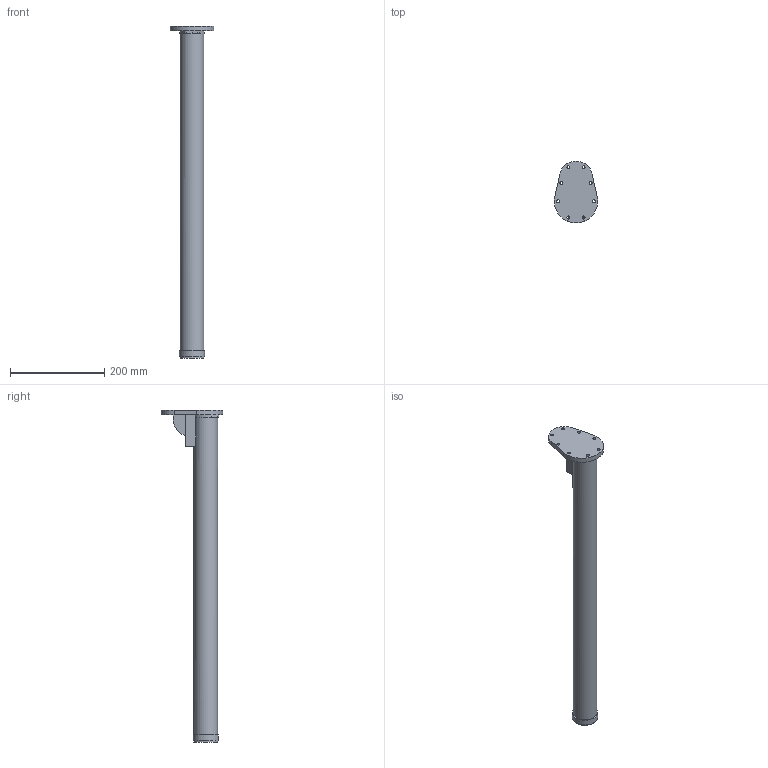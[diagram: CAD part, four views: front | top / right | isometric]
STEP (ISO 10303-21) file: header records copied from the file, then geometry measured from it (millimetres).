
FILE_DESCRIPTION( ( 'STEP AP214' ), '1' );
FILE_NAME( 'D:/Yug/2021/Delta/desk_and_office_organisation/QC/46066.stp', '2021-01-22T12:29:12', ( '' ), ( '' ), ' ', 'PARTsolutions', ' ' );
FILE_SCHEMA( ( 'AUTOMOTIVE_DESIGN { 1 0 10303 214 1 1 1 1 }' ) );
Length unit declared in the file: millimetre
Products named in the file (1): _46066
Bounding box: 91.88 x 130.83 x 703.5 mm (x, y, z)
Volume: 1534618 mm3; surface area: 138794.5 mm2
Topology: 1 solids, 1 shells, 39 faces, 104 edges, 68 vertices
Faces by surface type: plane 21, cylinder 18
Full cylindrical faces by diameter (mm): 6.4 x8, 50 x1, 50.5 x1, 53.7 x1
Entity records: 1505 total; most frequent: DIRECTION 211, CARTESIAN_POINT 195, ORIENTED_EDGE 180, EDGE_CURVE 90, AXIS2_PLACEMENT_3D 81, EDGE_LOOP 67, VERTEX_POINT 65, FACE_OUTER_BOUND 50
